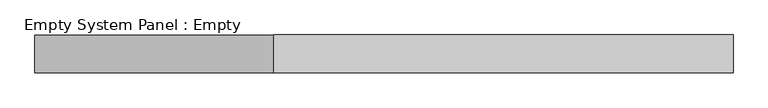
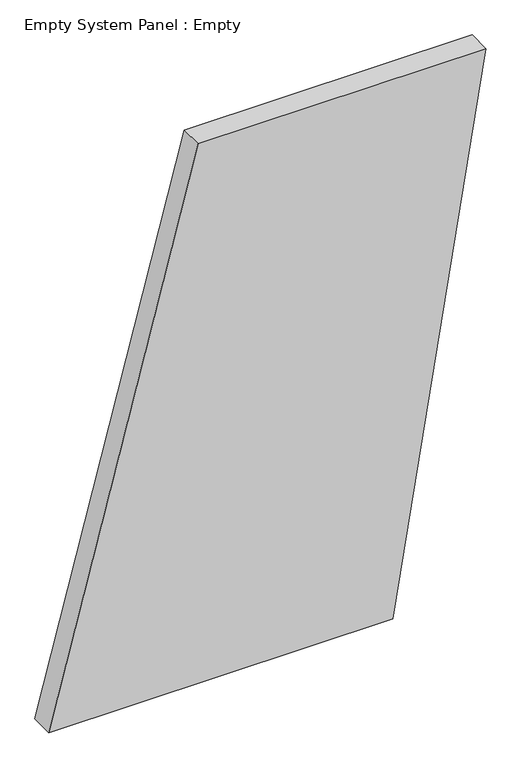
"""IFC4 building model written with IfcOpenShell, lengths in millimetres: plate geometry, Empty System Panel : Empty."""

from ifc_helpers import new_model, si_unit, frame, origin, place, context, project, spatial, polyline, outline, extrude, source, transform, mapped, element, save


def empty_system_panel_empty_250252ff(model_context):
    return source(origin(), model_context, "Body", "SweptSolid", [
        extrude(outline(polyline([(0.0, -935.8785292), (0.0, 537.1531149), (2443.4089017, 935.8785292), (2442.7367149, -295.6016265), (0.0, -935.8785292)])), frame((0.0, -50.8, 0.0), z_axis=(0.0, 1.0, 0.0), x_axis=(0.0, 0.0, 1.0)), (0.0, 0.0, 1.0), 101.6),
    ])


if __name__ == "__main__":
    model = new_model("IFC4")
    model_context = context("Model", 3, world=origin())
    ifc_project = project(units=[si_unit("LENGTHUNIT", "METRE", prefix="MILLI")], contexts=[model_context])
    site = spatial("IfcSite", under=ifc_project)
    building = spatial("IfcBuilding", under=site)
    placement = place(None, origin())
    empty_system_panel_empty_shape = empty_system_panel_empty_250252ff(model_context)
    element("IfcPlate", 1, ObjectType="Empty System Panel : Empty", at=placement, inside=building, context=model_context, shape_type="MappedRepresentation", body=[
        mapped(empty_system_panel_empty_shape, transform((0.0, 0.0, 0.0), x_axis=(1.0, 0.0, 0.0), y_axis=(0.0, 1.0, 0.0), z_axis=(0.0, 0.0, 1.0))),
    ])
    save(model, "model.ifc")
